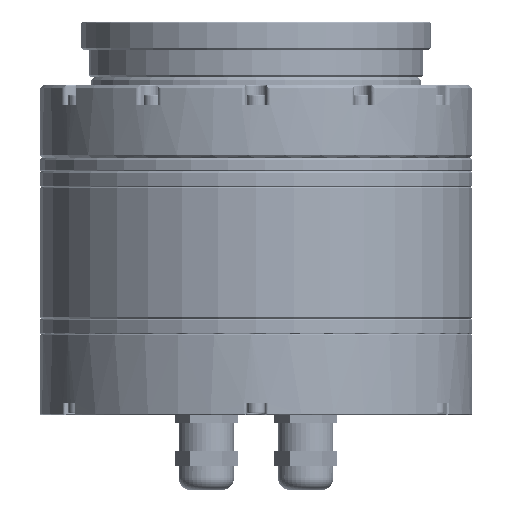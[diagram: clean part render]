
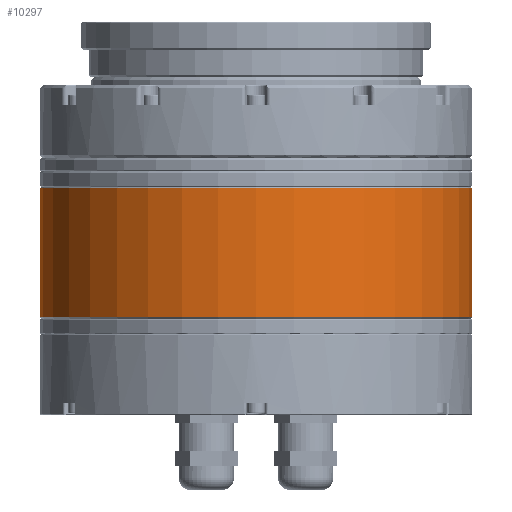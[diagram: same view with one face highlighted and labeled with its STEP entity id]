
A CAD part, front view. The second image highlights one B-rep face of the part: STEP entity #10297.
In plain terms, the highlighted cylindrical face has radius 55 mm (diameter 110 mm), a full revolution.
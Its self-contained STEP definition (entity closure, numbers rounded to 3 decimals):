
#3318=CYLINDRICAL_SURFACE('',#41871,55.);
#10297=ADVANCED_FACE('',(#13955,#13956),#3318,.T.);
#13955=FACE_BOUND('',#17874,.T.);
#13956=FACE_BOUND('',#17875,.T.);
#17874=EDGE_LOOP('',(#26328));
#17875=EDGE_LOOP('',(#26329));
#26328=ORIENTED_EDGE('',*,*,#34444,.T.);
#26329=ORIENTED_EDGE('',*,*,#34445,.T.);
#30067=VERTEX_POINT('',#66759);
#30068=VERTEX_POINT('',#66761);
#34444=EDGE_CURVE('',#30067,#30067,#37033,.T.);
#34445=EDGE_CURVE('',#30068,#30068,#37034,.T.);
#37033=CIRCLE('',#41869,55.);
#37034=CIRCLE('',#41870,55.);
#41869=AXIS2_PLACEMENT_3D('',#66758,#52987,#52988);
#41870=AXIS2_PLACEMENT_3D('',#66760,#52989,#52990);
#41871=AXIS2_PLACEMENT_3D('',#66762,#52991,#52992);
#52987=DIRECTION('',(0.,0.,1.));
#52988=DIRECTION('',(1.,0.,0.));
#52989=DIRECTION('',(0.,0.,-1.));
#52990=DIRECTION('',(-1.,0.,0.));
#52991=DIRECTION('',(0.,0.,1.));
#52992=DIRECTION('',(1.,0.,0.));
#66758=CARTESIAN_POINT('',(0.,0.,-33.35));
#66759=CARTESIAN_POINT('',(55.,0.,-33.35));
#66760=CARTESIAN_POINT('',(0.,0.,-0.55));
#66761=CARTESIAN_POINT('',(-55.,0.,-0.55));
#66762=CARTESIAN_POINT('',(0.,0.,-0.25));
